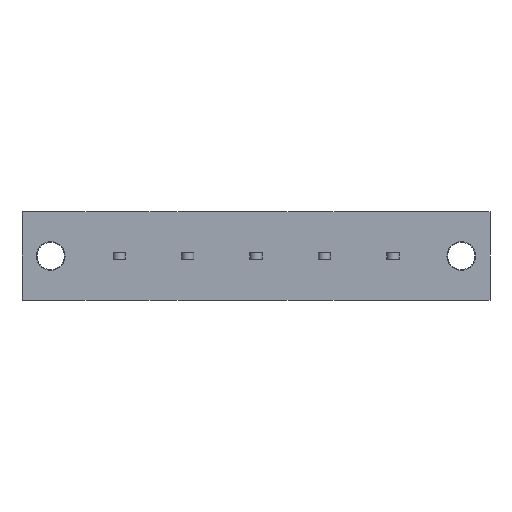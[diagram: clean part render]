
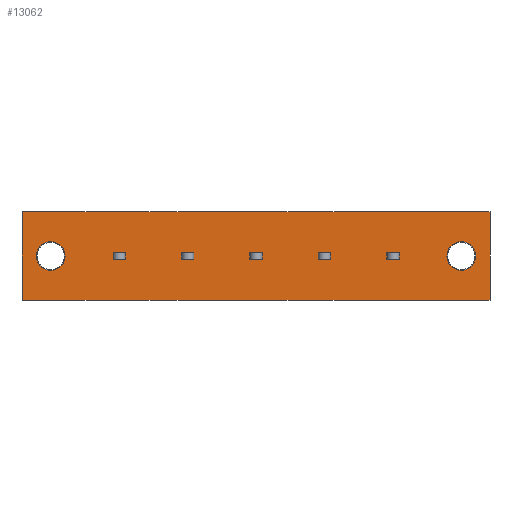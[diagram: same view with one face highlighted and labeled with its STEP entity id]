
A CAD part, front view. The second image highlights one B-rep face of the part: STEP entity #13062.
In plain terms, the highlighted planar face has unit normal (0, -1, 0).
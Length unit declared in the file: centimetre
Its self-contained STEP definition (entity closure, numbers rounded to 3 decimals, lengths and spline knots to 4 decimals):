
#971=VECTOR('',#14697,1.);
#1088=VECTOR('',#14978,1.);
#1093=VECTOR('',#14990,1.);
#1097=VECTOR('',#15008,1.);
#1099=VECTOR('',#15011,1.);
#1115=VECTOR('',#15036,1.);
#1116=VECTOR('',#15037,1.);
#1117=VECTOR('',#15038,1.);
#1118=VECTOR('',#15039,1.);
#1119=VECTOR('',#15040,1.);
#1120=VECTOR('',#15041,1.);
#1121=VECTOR('',#15042,1.);
#1122=VECTOR('',#15043,1.);
#1123=VECTOR('',#15044,1.);
#1124=VECTOR('',#15045,1.);
#1125=VECTOR('',#15046,1.);
#1126=VECTOR('',#15047,1.);
#1127=VECTOR('',#15048,1.);
#1128=VECTOR('',#15049,1.);
#1129=VECTOR('',#15050,1.);
#1130=VECTOR('',#15051,1.);
#1131=VECTOR('',#15052,1.);
#1132=VECTOR('',#15053,1.);
#1133=VECTOR('',#15054,1.);
#2475=LINE('',#18391,#971);
#2592=LINE('',#18772,#1088);
#2597=LINE('',#18787,#1093);
#2601=LINE('',#18801,#1097);
#2603=LINE('',#18805,#1099);
#2619=LINE('',#18844,#1115);
#2620=LINE('',#18847,#1116);
#2621=LINE('',#18849,#1117);
#2622=LINE('',#18851,#1118);
#2623=LINE('',#18852,#1119);
#2624=LINE('',#18855,#1120);
#2625=LINE('',#18857,#1121);
#2626=LINE('',#18859,#1122);
#2627=LINE('',#18860,#1123);
#2628=LINE('',#18863,#1124);
#2629=LINE('',#18865,#1125);
#2630=LINE('',#18867,#1126);
#2631=LINE('',#18868,#1127);
#2632=LINE('',#18871,#1128);
#2633=LINE('',#18873,#1129);
#2634=LINE('',#18875,#1130);
#2635=LINE('',#18876,#1131);
#2636=LINE('',#18878,#1132);
#2637=LINE('',#18880,#1133);
#3962=VERTEX_POINT('',#18389);
#3964=VERTEX_POINT('',#18392);
#3970=VERTEX_POINT('',#18406);
#4082=VERTEX_POINT('',#18773);
#4083=VERTEX_POINT('',#18774);
#4088=VERTEX_POINT('',#18788);
#4089=VERTEX_POINT('',#18802);
#4106=VERTEX_POINT('',#18843);
#4107=VERTEX_POINT('',#18845);
#4108=VERTEX_POINT('',#18846);
#4109=VERTEX_POINT('',#18848);
#4110=VERTEX_POINT('',#18850);
#4111=VERTEX_POINT('',#18853);
#4112=VERTEX_POINT('',#18854);
#4113=VERTEX_POINT('',#18856);
#4114=VERTEX_POINT('',#18858);
#4115=VERTEX_POINT('',#18861);
#4116=VERTEX_POINT('',#18862);
#4117=VERTEX_POINT('',#18864);
#4118=VERTEX_POINT('',#18866);
#4119=VERTEX_POINT('',#18869);
#4120=VERTEX_POINT('',#18870);
#4121=VERTEX_POINT('',#18872);
#4122=VERTEX_POINT('',#18874);
#4123=VERTEX_POINT('',#18877);
#4124=VERTEX_POINT('',#18879);
#4946=CIRCLE('',#22158,0.21);
#4987=CIRCLE('',#22282,0.21);
#5669=EDGE_CURVE('',#3964,#3962,#2475,.T.);
#5676=EDGE_CURVE('',#3970,#3970,#4946,.T.);
#5837=EDGE_CURVE('',#4082,#4083,#2592,.T.);
#5844=EDGE_CURVE('',#4088,#4082,#2597,.T.);
#5851=EDGE_CURVE('',#4089,#4088,#2601,.T.);
#5853=EDGE_CURVE('',#4083,#4089,#2603,.T.);
#5871=EDGE_CURVE('',#4106,#4106,#4987,.T.);
#5872=EDGE_CURVE('',#4107,#4108,#2619,.T.);
#5873=EDGE_CURVE('',#4108,#4109,#2620,.T.);
#5874=EDGE_CURVE('',#4109,#4110,#2621,.T.);
#5875=EDGE_CURVE('',#4110,#4107,#2622,.T.);
#5876=EDGE_CURVE('',#4111,#4112,#2623,.T.);
#5877=EDGE_CURVE('',#4112,#4113,#2624,.T.);
#5878=EDGE_CURVE('',#4113,#4114,#2625,.T.);
#5879=EDGE_CURVE('',#4114,#4111,#2626,.T.);
#5880=EDGE_CURVE('',#4115,#4116,#2627,.T.);
#5881=EDGE_CURVE('',#4116,#4117,#2628,.T.);
#5882=EDGE_CURVE('',#4117,#4118,#2629,.T.);
#5883=EDGE_CURVE('',#4118,#4115,#2630,.T.);
#5884=EDGE_CURVE('',#4119,#4120,#2631,.T.);
#5885=EDGE_CURVE('',#4120,#4121,#2632,.T.);
#5886=EDGE_CURVE('',#4121,#4122,#2633,.T.);
#5887=EDGE_CURVE('',#4122,#4119,#2634,.T.);
#5888=EDGE_CURVE('',#4123,#3964,#2635,.T.);
#5889=EDGE_CURVE('',#4124,#3962,#2636,.T.);
#5890=EDGE_CURVE('',#4124,#4123,#2637,.T.);
#8544=ORIENTED_EDGE('',*,*,#5676,.T.);
#8545=ORIENTED_EDGE('',*,*,#5871,.T.);
#8546=ORIENTED_EDGE('',*,*,#5844,.F.);
#8547=ORIENTED_EDGE('',*,*,#5851,.F.);
#8548=ORIENTED_EDGE('',*,*,#5853,.F.);
#8549=ORIENTED_EDGE('',*,*,#5837,.F.);
#8550=ORIENTED_EDGE('',*,*,#5872,.T.);
#8551=ORIENTED_EDGE('',*,*,#5873,.T.);
#8552=ORIENTED_EDGE('',*,*,#5874,.T.);
#8553=ORIENTED_EDGE('',*,*,#5875,.T.);
#8554=ORIENTED_EDGE('',*,*,#5876,.T.);
#8555=ORIENTED_EDGE('',*,*,#5877,.T.);
#8556=ORIENTED_EDGE('',*,*,#5878,.T.);
#8557=ORIENTED_EDGE('',*,*,#5879,.T.);
#8558=ORIENTED_EDGE('',*,*,#5880,.T.);
#8559=ORIENTED_EDGE('',*,*,#5881,.T.);
#8560=ORIENTED_EDGE('',*,*,#5882,.T.);
#8561=ORIENTED_EDGE('',*,*,#5883,.T.);
#8562=ORIENTED_EDGE('',*,*,#5884,.T.);
#8563=ORIENTED_EDGE('',*,*,#5885,.T.);
#8564=ORIENTED_EDGE('',*,*,#5886,.T.);
#8565=ORIENTED_EDGE('',*,*,#5887,.T.);
#8566=ORIENTED_EDGE('',*,*,#5888,.T.);
#8567=ORIENTED_EDGE('',*,*,#5669,.T.);
#8568=ORIENTED_EDGE('',*,*,#5889,.F.);
#8569=ORIENTED_EDGE('',*,*,#5890,.T.);
#11417=EDGE_LOOP('',(#8544));
#11418=EDGE_LOOP('',(#8545));
#11419=EDGE_LOOP('',(#8546,#8547,#8548,#8549));
#11420=EDGE_LOOP('',(#8550,#8551,#8552,#8553));
#11421=EDGE_LOOP('',(#8554,#8555,#8556,#8557));
#11422=EDGE_LOOP('',(#8558,#8559,#8560,#8561));
#11423=EDGE_LOOP('',(#8562,#8563,#8564,#8565));
#11424=EDGE_LOOP('',(#8566,#8567,#8568,#8569));
#12257=FACE_BOUND('',#11417,.T.);
#12258=FACE_BOUND('',#11418,.T.);
#12259=FACE_BOUND('',#11419,.T.);
#12260=FACE_BOUND('',#11420,.T.);
#12261=FACE_BOUND('',#11421,.T.);
#12262=FACE_BOUND('',#11422,.T.);
#12263=FACE_BOUND('',#11423,.T.);
#12264=FACE_BOUND('',#11424,.T.);
#13062=ADVANCED_FACE('',(#12257,#12258,#12259,#12260,#12261,#12262,#12263,
#12264),#13741,.T.);
#13741=PLANE('',#22281);
#14697=DIRECTION('',(0.,0.,1.));
#14706=DIRECTION('',(0.,1.,0.));
#14707=DIRECTION('',(0.21,0.,0.));
#14978=DIRECTION('',(0.,0.,1.));
#14990=DIRECTION('',(1.,0.,0.));
#15008=DIRECTION('',(0.,0.,-1.));
#15011=DIRECTION('',(-1.,0.,0.));
#15033=DIRECTION('',(0.,-1.,0.));
#15034=DIRECTION('',(0.,1.,0.));
#15035=DIRECTION('',(0.21,0.,0.));
#15036=DIRECTION('',(-1.,0.,0.));
#15037=DIRECTION('',(0.,0.,1.));
#15038=DIRECTION('',(1.,0.,0.));
#15039=DIRECTION('',(0.,0.,-1.));
#15040=DIRECTION('',(-1.,0.,0.));
#15041=DIRECTION('',(0.,0.,1.));
#15042=DIRECTION('',(1.,0.,0.));
#15043=DIRECTION('',(0.,0.,-1.));
#15044=DIRECTION('',(-1.,0.,0.));
#15045=DIRECTION('',(0.,0.,1.));
#15046=DIRECTION('',(1.,0.,0.));
#15047=DIRECTION('',(0.,0.,-1.));
#15048=DIRECTION('',(-1.,0.,0.));
#15049=DIRECTION('',(0.,0.,1.));
#15050=DIRECTION('',(1.,0.,0.));
#15051=DIRECTION('',(0.,0.,-1.));
#15052=DIRECTION('',(1.,0.,0.));
#15053=DIRECTION('',(1.,0.,0.));
#15054=DIRECTION('',(0.,0.,-1.));
#18389=CARTESIAN_POINT('',(5.,0.,0.65));
#18391=CARTESIAN_POINT('',(5.,0.,0.65));
#18392=CARTESIAN_POINT('',(5.,0.,-0.65));
#18405=CARTESIAN_POINT('',(4.58,0.,0.));
#18406=CARTESIAN_POINT('',(4.37,0.,0.));
#18772=CARTESIAN_POINT('',(-0.33,0.,-0.175));
#18773=CARTESIAN_POINT('',(-0.33,0.,-0.05));
#18774=CARTESIAN_POINT('',(-0.33,0.,0.05));
#18787=CARTESIAN_POINT('',(-0.63,0.,-0.05));
#18788=CARTESIAN_POINT('',(-0.51,0.,-0.05));
#18801=CARTESIAN_POINT('',(-0.51,0.,-0.175));
#18802=CARTESIAN_POINT('',(-0.51,0.,0.05));
#18805=CARTESIAN_POINT('',(-0.63,0.,0.05));
#18841=CARTESIAN_POINT('',(0.,0.,0.));
#18842=CARTESIAN_POINT('',(-1.42,0.,0.));
#18843=CARTESIAN_POINT('',(-1.63,0.,0.));
#18844=CARTESIAN_POINT('',(1.79,0.,-0.05));
#18845=CARTESIAN_POINT('',(3.67,0.,-0.05));
#18846=CARTESIAN_POINT('',(3.49,0.,-0.05));
#18847=CARTESIAN_POINT('',(3.49,0.,-0.175));
#18848=CARTESIAN_POINT('',(3.49,0.,0.05));
#18849=CARTESIAN_POINT('',(1.79,0.,0.05));
#18850=CARTESIAN_POINT('',(3.67,0.,0.05));
#18851=CARTESIAN_POINT('',(3.67,0.,-0.175));
#18852=CARTESIAN_POINT('',(1.29,0.,-0.05));
#18853=CARTESIAN_POINT('',(2.67,0.,-0.05));
#18854=CARTESIAN_POINT('',(2.49,0.,-0.05));
#18855=CARTESIAN_POINT('',(2.49,0.,-0.175));
#18856=CARTESIAN_POINT('',(2.49,0.,0.05));
#18857=CARTESIAN_POINT('',(1.29,0.,0.05));
#18858=CARTESIAN_POINT('',(2.67,0.,0.05));
#18859=CARTESIAN_POINT('',(2.67,0.,-0.175));
#18860=CARTESIAN_POINT('',(0.79,0.,-0.05));
#18861=CARTESIAN_POINT('',(1.67,0.,-0.05));
#18862=CARTESIAN_POINT('',(1.49,0.,-0.05));
#18863=CARTESIAN_POINT('',(1.49,0.,-0.175));
#18864=CARTESIAN_POINT('',(1.49,0.,0.05));
#18865=CARTESIAN_POINT('',(0.79,0.,0.05));
#18866=CARTESIAN_POINT('',(1.67,0.,0.05));
#18867=CARTESIAN_POINT('',(1.67,0.,-0.175));
#18868=CARTESIAN_POINT('',(0.29,0.,-0.05));
#18869=CARTESIAN_POINT('',(0.67,0.,-0.05));
#18870=CARTESIAN_POINT('',(0.49,0.,-0.05));
#18871=CARTESIAN_POINT('',(0.49,0.,-0.175));
#18872=CARTESIAN_POINT('',(0.49,0.,0.05));
#18873=CARTESIAN_POINT('',(0.29,0.,0.05));
#18874=CARTESIAN_POINT('',(0.67,0.,0.05));
#18875=CARTESIAN_POINT('',(0.67,0.,-0.175));
#18876=CARTESIAN_POINT('',(-1.84,0.,-0.65));
#18877=CARTESIAN_POINT('',(-1.84,0.,-0.65));
#18878=CARTESIAN_POINT('',(0.,0.,0.65));
#18879=CARTESIAN_POINT('',(-1.84,0.,0.65));
#18880=CARTESIAN_POINT('',(-1.84,0.,0.65));
#22158=AXIS2_PLACEMENT_3D('',#18405,#14706,#14707);
#22281=AXIS2_PLACEMENT_3D('',#18841,#15033,$);
#22282=AXIS2_PLACEMENT_3D('',#18842,#15034,#15035);
